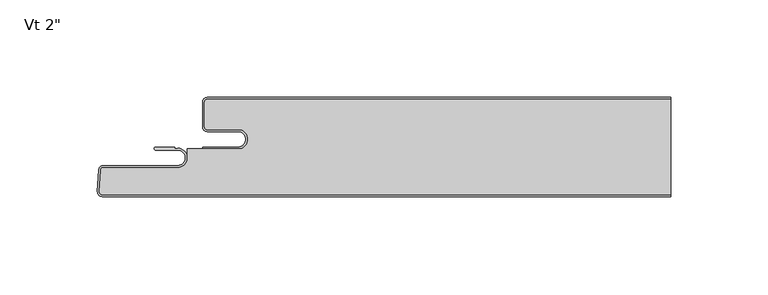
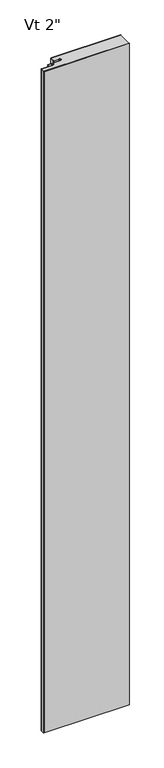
"""IFC4 building model written with IfcOpenShell, lengths in millimetres: plate geometry."""

from ifc_helpers import new_model, si_unit, point, frame_2d, origin, origin_with_axes, place, context, project, spatial, polyline, circle_curve, trimmed, segment, composite_curve, outline, extrude, source, transform, mapped, element, save


def plate_8e6019d6(model_context):
    return source(origin(), model_context, "Body", "SweptSolid", [
        extrude(outline(composite_curve([segment(polyline([(-117.2187498, -1.0), (120.4062498, -1.0), (120.4062498, -49.8), (-171.0656859, -49.8)]), True, "CONTINUOUS"), segment(trimmed(circle_curve(frame_2d((-171.0656859, -48.41875)), 1.38125), [point((-171.0656859, -49.8))], [point((-172.445043, -48.346461))], False, "CARTESIAN"), True, "CONTINUOUS"), segment(polyline([(-172.445043, -48.346461), (-171.8626615, -37.233961)]), True, "CONTINUOUS"), segment(trimmed(circle_curve(frame_2d((-170.4833045, -37.30625)), 1.38125), [point((-171.8626615, -37.233961))], [point((-170.4833045, -35.925))], False, "CARTESIAN"), True, "CONTINUOUS"), segment(polyline([(-170.4833045, -35.925), (-132.2999998, -35.925)]), True, "CONTINUOUS"), segment(trimmed(circle_curve(frame_2d((-132.2999998, -30.95625)), 4.96875), [point((-132.2999998, -35.925))], [point((-127.3312498, -30.95625))], True, "CARTESIAN"), True, "CONTINUOUS"), segment(polyline([(-127.3312498, -30.95625), (-127.3312498, -26.4), (-101.3437498, -26.4)]), True, "CONTINUOUS"), segment(trimmed(circle_curve(frame_2d((-101.3437498, -21.43125)), 4.96875), [point((-101.3437498, -26.4))], [point((-101.3437498, -16.4625))], True, "CARTESIAN"), True, "CONTINUOUS"), segment(polyline([(-101.3437498, -16.4625), (-117.2187498, -16.4625)]), True, "CONTINUOUS"), segment(trimmed(circle_curve(frame_2d((-117.2187498, -15.08125)), 1.38125), [point((-117.2187498, -16.4625))], [point((-118.5999998, -15.08125))], False, "CARTESIAN"), True, "CONTINUOUS"), segment(polyline([(-118.5999998, -15.08125), (-118.5999998, -2.38125)]), True, "CONTINUOUS"), segment(trimmed(circle_curve(frame_2d((-117.2187498, -2.38125)), 1.38125), [point((-118.5999998, -2.38125))], [point((-117.2187498, -1.0))], False, "CARTESIAN"), True, "CONTINUOUS")], self_intersect=False)), origin_with_axes(), (0.0, 0.0, 1.0), 2400.0),
        extrude(outline(composite_curve([segment(polyline([(-119.5999998, -25.4), (-101.3437498, -25.4)]), True, "CONTINUOUS"), segment(trimmed(circle_curve(frame_2d((-101.3437498, -21.43125)), 3.96875), [point((-101.3437498, -25.4))], [point((-101.3437498, -17.4625))], True, "CARTESIAN"), True, "CONTINUOUS"), segment(polyline([(-101.3437498, -17.4625), (-117.2187498, -17.4625)]), True, "CONTINUOUS"), segment(trimmed(circle_curve(frame_2d((-117.2187498, -15.08125)), 2.38125), [point((-117.2187498, -17.4625))], [point((-119.5999998, -15.08125))], False, "CARTESIAN"), True, "CONTINUOUS"), segment(polyline([(-119.5999998, -15.08125), (-119.5999998, -2.38125)]), True, "CONTINUOUS"), segment(trimmed(circle_curve(frame_2d((-117.2187498, -2.38125)), 2.38125), [point((-119.5999998, -2.38125))], [point((-117.2187498, 0.0))], False, "CARTESIAN"), True, "CONTINUOUS"), segment(polyline([(-117.2187498, 0.0), (120.4062498, 0.0), (120.4062498, -1.0), (-117.2187498, -1.0)]), True, "CONTINUOUS"), segment(trimmed(circle_curve(frame_2d((-117.2187498, -2.38125)), 1.38125), [point((-117.2187498, -1.0))], [point((-118.5999998, -2.38125))], True, "CARTESIAN"), True, "CONTINUOUS"), segment(polyline([(-118.5999998, -2.38125), (-118.5999998, -15.08125)]), True, "CONTINUOUS"), segment(trimmed(circle_curve(frame_2d((-117.2187498, -15.08125)), 1.38125), [point((-118.5999998, -15.08125))], [point((-117.2187498, -16.4625))], True, "CARTESIAN"), True, "CONTINUOUS"), segment(polyline([(-117.2187498, -16.4625), (-101.3437498, -16.4625)]), True, "CONTINUOUS"), segment(trimmed(circle_curve(frame_2d((-101.3437498, -21.43125)), 4.96875), [point((-101.3437498, -16.4625))], [point((-101.3437498, -26.4))], False, "CARTESIAN"), True, "CONTINUOUS"), segment(polyline([(-101.3437498, -26.4), (-119.5999998, -26.4), (-119.5999998, -25.4)]), True, "CONTINUOUS")], self_intersect=False)), origin_with_axes(), (0.0, 0.0, 1.0), 2400.0),
        extrude(outline(composite_curve([segment(polyline([(-143.6252048, -25.4), (-133.9017673, -25.4), (-133.9017673, -26.19375), (-132.3142673, -25.9875)]), True, "CONTINUOUS"), segment(trimmed(circle_curve(frame_2d((-132.3142673, -30.95625)), 4.96875), [point((-132.3142673, -25.9875))], [point((-132.3142673, -35.925))], False, "CARTESIAN"), True, "CONTINUOUS"), segment(polyline([(-132.3142673, -35.925), (-170.4975719, -35.925)]), True, "CONTINUOUS"), segment(trimmed(circle_curve(frame_2d((-170.4975719, -37.30625)), 1.38125), [point((-170.4975719, -35.925))], [point((-171.876929, -37.233961))], True, "CARTESIAN"), True, "CONTINUOUS"), segment(polyline([(-171.876929, -37.233961), (-172.4593104, -48.346461)]), True, "CONTINUOUS"), segment(trimmed(circle_curve(frame_2d((-171.0799534, -48.41875)), 1.38125), [point((-172.4593104, -48.346461))], [point((-171.0799534, -49.8))], True, "CARTESIAN"), True, "CONTINUOUS"), segment(polyline([(-171.0799534, -49.8), (120.4062498, -49.8), (120.4062498, -50.8), (-171.0799534, -50.8)]), True, "CONTINUOUS"), segment(trimmed(circle_curve(frame_2d((-171.0799534, -48.41875)), 2.38125), [point((-171.0799534, -50.8))], [point((-173.4579399, -48.294125))], False, "CARTESIAN"), True, "CONTINUOUS"), segment(polyline([(-173.4579399, -48.294125), (-172.8755585, -37.181625)]), True, "CONTINUOUS"), segment(trimmed(circle_curve(frame_2d((-170.4975719, -37.30625)), 2.38125), [point((-172.8755585, -37.181625))], [point((-170.4975719, -34.925))], False, "CARTESIAN"), True, "CONTINUOUS"), segment(polyline([(-170.4975719, -34.925), (-132.3142673, -34.925)]), True, "CONTINUOUS"), segment(trimmed(circle_curve(frame_2d((-132.3142673, -30.95625)), 3.96875), [point((-132.3142673, -34.925))], [point((-132.3142673, -26.9875))], True, "CARTESIAN"), True, "CONTINUOUS"), segment(polyline([(-132.3142673, -26.9875), (-143.6252048, -26.9875)]), True, "CONTINUOUS"), segment(trimmed(circle_curve(frame_2d((-143.6252048, -26.19375)), 0.79375), [point((-143.6252048, -26.9875))], [point((-143.6252048, -25.4))], False, "CARTESIAN"), True, "CONTINUOUS")], self_intersect=False)), origin_with_axes(), (0.0, 0.0, 1.0), 2400.0),
    ])


if __name__ == "__main__":
    model = new_model("IFC4")
    model_context = context("Model", 3, world=origin())
    ifc_project = project(units=[si_unit("LENGTHUNIT", "METRE", prefix="MILLI")], contexts=[model_context])
    site = spatial("IfcSite", under=ifc_project)
    building = spatial("IfcBuilding", under=site)
    placement = place(None, origin())
    plate_shape = plate_8e6019d6(model_context)
    element("IfcPlate", 1, ObjectType="KIP-12-DWTR-R19-CP-Vt-F : Vt 2\"", at=placement, inside=building, context=model_context, shape_type="MappedRepresentation", body=[
        mapped(plate_shape, transform((0.0, 0.0, 0.0), x_axis=(1.0, 0.0, 0.0), y_axis=(0.0, 1.0, 0.0), z_axis=(0.0, 0.0, 1.0))),
    ])
    save(model, "model.ifc")
